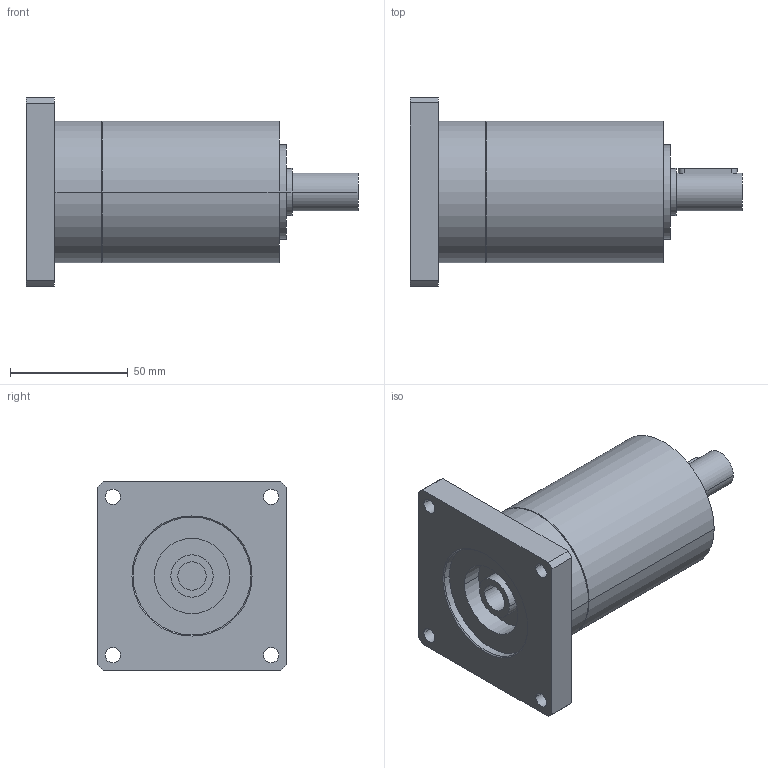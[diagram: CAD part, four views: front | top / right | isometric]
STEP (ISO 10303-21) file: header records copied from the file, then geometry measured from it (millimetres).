
FILE_DESCRIPTION(('CoCreate Modeling STEP Export'),'2;1');
FILE_NAME('GPR75_ig-9-12-16-20-24-30-36_16_B14_12_P27.stp','2014-08-25T16:32:51',(''),(''),'CoCreate Modeling STEP processor for AP214 (Solid Model)','CoCreate Modeling 16.00C 25-Feb-2009 (C) Parametric Technology GmbH','');
FILE_SCHEMA(('AUTOMOTIVE_DESIGN { 1 0 10303 214 1 1 1 1 }'));
Length unit declared in the file: millimetre
Products named in the file (2): GPR75_ig-9-12-16-20-24-30-36_16_B14_12_P27
Assembly tree (1 placements, depth 2):
  GPR75_ig-9-12-16-20-24-30-36_16_B14_12_P27
    GPR75_ig-9-12-16-20-24-30-36_16_B14_12_P27
Bounding box: 140.9 x 80 x 80 mm (x, y, z)
Volume: 338979.1 mm3; surface area: 41085.2 mm2
Topology: 1 solids, 1 shells, 72 faces, 186 edges, 128 vertices
Faces by surface type: cylinder 42, plane 22, cone 8
Entity records: 1949 total; most frequent: ORIENTED_EDGE 368, CARTESIAN_POINT 360, DIRECTION 268, EDGE_CURVE 184, VERTEX_POINT 128, AXIS2_PLACEMENT_3D 100, EDGE_LOOP 94, FACE_OUTER_BOUND 72
